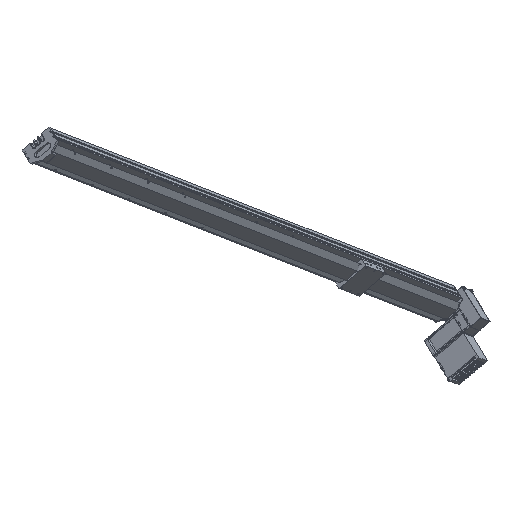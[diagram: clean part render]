
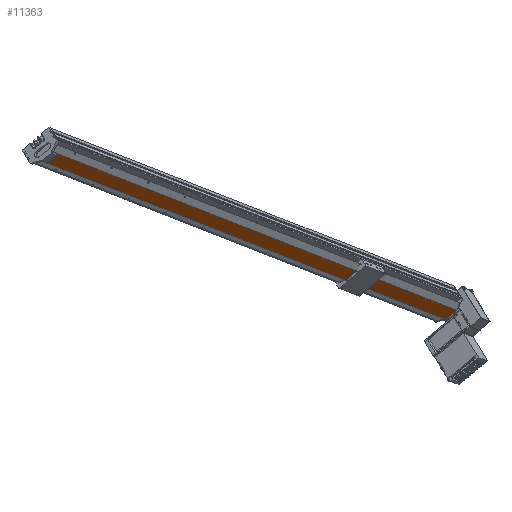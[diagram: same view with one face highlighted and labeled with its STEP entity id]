
A CAD part, top view. The second image highlights one B-rep face of the part: STEP entity #11363.
In plain terms, the highlighted planar face has unit normal (0.464, -0.763, 0.45) as drawn and (0, 1, 0) by its records, which use the part's own axes.
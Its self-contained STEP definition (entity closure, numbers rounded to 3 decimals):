
#1432 = EDGE_CURVE ( 'NONE', #11372, #6864, #12336, .T. ) ;
#1680 = EDGE_CURVE ( 'NONE', #11351, #11377, #17507, .T. ) ;
#6864 = VERTEX_POINT ( 'NONE', #22400 ) ;
#7671 = VERTEX_POINT ( 'NONE', #23570 ) ;
#7772 = EDGE_CURVE ( 'NONE', #6864, #7671, #23853, .T. ) ;
#11351 = VERTEX_POINT ( 'NONE', #26847 ) ;
#11354 = ORIENTED_EDGE ( 'NONE', *, *, #11380, .T. ) ;
#11355 = EDGE_LOOP ( 'NONE', ( #11354, #11364, #11370, #11356, #11365 ) ) ;
#11356 = ORIENTED_EDGE ( 'NONE', *, *, #1432, .T. ) ;
#11363 = ADVANCED_FACE ( 'NONE', ( #26822 ), #26683, .F. ) ;
#11364 = ORIENTED_EDGE ( 'NONE', *, *, #1680, .F. ) ;
#11365 = ORIENTED_EDGE ( 'NONE', *, *, #7772, .T. ) ;
#11367 = EDGE_CURVE ( 'NONE', #11372, #11351, #26702, .T. ) ;
#11370 = ORIENTED_EDGE ( 'NONE', *, *, #11367, .F. ) ;
#11372 = VERTEX_POINT ( 'NONE', #26801 ) ;
#11377 = VERTEX_POINT ( 'NONE', #26797 ) ;
#11380 = EDGE_CURVE ( 'NONE', #7671, #11377, #26838, .T. ) ;
#12321 = DIRECTION ( 'NONE',  ( 0., 0., -1. ) ) ;
#12322 = VECTOR ( 'NONE', #12321, 1000. ) ;
#12323 = CARTESIAN_POINT ( 'NONE',  ( 20., 61.75, 2200. ) ) ;
#12336 = LINE ( 'NONE', #12323, #12322 ) ;
#17504 = DIRECTION ( 'NONE',  ( 0., 0., -1. ) ) ;
#17505 = VECTOR ( 'NONE', #17504, 1000. ) ;
#17506 = CARTESIAN_POINT ( 'NONE',  ( -20., 61.75, 2200. ) ) ;
#17507 = LINE ( 'NONE', #17506, #17505 ) ;
#22400 = CARTESIAN_POINT ( 'NONE',  ( 20., 61.75, 5.114 ) ) ;
#23570 = CARTESIAN_POINT ( 'NONE',  ( 20., 61.75, 0. ) ) ;
#23786 = DIRECTION ( 'NONE',  ( 0., 0., -1. ) ) ;
#23787 = VECTOR ( 'NONE', #23786, 1000. ) ;
#23788 = CARTESIAN_POINT ( 'NONE',  ( 20., 61.75, 2200. ) ) ;
#23853 = LINE ( 'NONE', #23788, #23787 ) ;
#26683 = PLANE ( 'NONE',  #26808 ) ;
#26699 = DIRECTION ( 'NONE',  ( -1., 0., 0. ) ) ;
#26700 = VECTOR ( 'NONE', #26699, 1000. ) ;
#26701 = CARTESIAN_POINT ( 'NONE',  ( 20., 61.75, 2200. ) ) ;
#26702 = LINE ( 'NONE', #26701, #26700 ) ;
#26797 = CARTESIAN_POINT ( 'NONE',  ( -20., 61.75, 0. ) ) ;
#26801 = CARTESIAN_POINT ( 'NONE',  ( 20., 61.75, 2200. ) ) ;
#26808 = AXIS2_PLACEMENT_3D ( 'NONE', #26832, #26831, #26830 ) ;
#26822 = FACE_OUTER_BOUND ( 'NONE', #11355, .T. ) ;
#26830 = DIRECTION ( 'NONE',  ( 0., 0., -1. ) ) ;
#26831 = DIRECTION ( 'NONE',  ( 0., -1., 0. ) ) ;
#26832 = CARTESIAN_POINT ( 'NONE',  ( 20., 61.75, 2200. ) ) ;
#26833 = DIRECTION ( 'NONE',  ( -1., 0., 0. ) ) ;
#26834 = VECTOR ( 'NONE', #26833, 1000. ) ;
#26835 = CARTESIAN_POINT ( 'NONE',  ( 20., 61.75, 0. ) ) ;
#26838 = LINE ( 'NONE', #26835, #26834 ) ;
#26847 = CARTESIAN_POINT ( 'NONE',  ( -20., 61.75, 2200. ) ) ;
